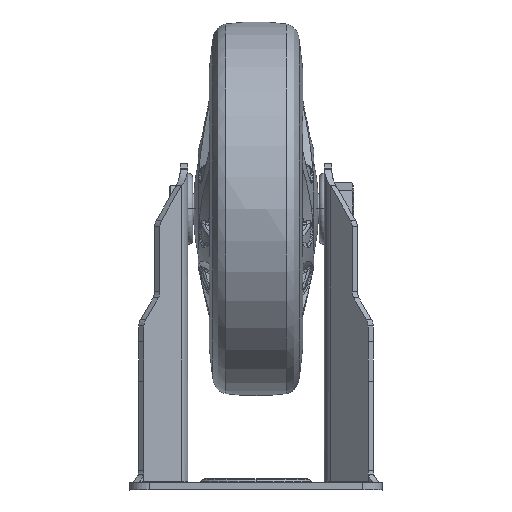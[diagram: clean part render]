
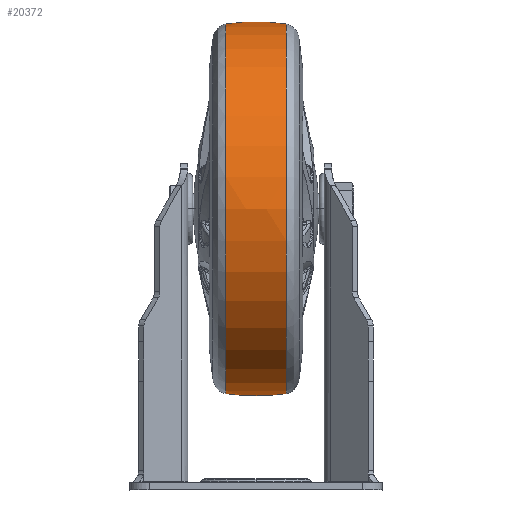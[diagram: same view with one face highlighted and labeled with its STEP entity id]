
A CAD part, left-side view. The second image highlights one B-rep face of the part: STEP entity #20372.
In plain terms, the highlighted free-form (B-spline) face has degree [3, 3] with [7, 4] control points.
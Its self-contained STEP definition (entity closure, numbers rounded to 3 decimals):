
#26 = DIRECTION ( 'NONE',  ( 0., 0., -1. ) ) ;
#539 = VERTEX_POINT ( 'NONE', #10269 ) ;
#594 = CARTESIAN_POINT ( 'NONE',  ( -75.202, 12.873, -100.5 ) ) ;
#2179 =( BOUNDED_SURFACE ( )  B_SPLINE_SURFACE ( 3, 3, ( 
 ( #44059, #59073, #53342, #18834 ),
 ( #38333, #63270, #20114, #5052 ),
 ( #19479, #14983, #38971, #58445 ),
 ( #14344, #34814, #15291, #594 ),
 ( #48550, #58119, #57803, #53021 ),
 ( #5367, #58762, #34200, #24912 ),
 ( #19155, #9217, #53672, #24585 ) ),
 .UNSPECIFIED., .F., .F., .F. ) 
 B_SPLINE_SURFACE_WITH_KNOTS ( ( 4, 3, 4 ),
 ( 4, 4 ),
 ( 0., 1., 2. ),
 ( 0., 1. ),
 .UNSPECIFIED. ) 
 GEOMETRIC_REPRESENTATION_ITEM ( )  RATIONAL_B_SPLINE_SURFACE ( (
 ( 1.192, 1.186, 1.186, 1.192),
 ( 0.941, 0.936, 0.936, 0.941),
 ( 0.941, 0.936, 0.936, 0.941),
 ( 1.192, 1.186, 1.186, 1.192),
 ( 0.941, 0.936, 0.936, 0.941),
 ( 0.941, 0.936, 0.936, 0.941),
 ( 1.192, 1.186, 1.186, 1.192) ) ) 
 REPRESENTATION_ITEM ( '' )  SURFACE ( )  );
#4350 = ORIENTED_EDGE ( 'NONE', *, *, #33723, .T. ) ;
#4375 = AXIS2_PLACEMENT_3D ( 'NONE', #47276, #36484, #17294 ) ;
#5052 = CARTESIAN_POINT ( 'NONE',  ( -41.466, 12.873, -178.459 ) ) ;
#5367 = CARTESIAN_POINT ( 'NONE',  ( -41.466, -12.873, -22.541 ) ) ;
#6243 = ORIENTED_EDGE ( 'NONE', *, *, #53174, .T. ) ;
#9217 = CARTESIAN_POINT ( 'NONE',  ( 4.806, -4.315, -24.116 ) ) ;
#10269 = CARTESIAN_POINT ( 'NONE',  ( 0., 12.38, -25.223 ) ) ;
#10794 = CIRCLE ( 'NONE', #36315, 75.277 ) ;
#14344 = CARTESIAN_POINT ( 'NONE',  ( -75.202, -12.873, -100.5 ) ) ;
#14576 = CARTESIAN_POINT ( 'NONE',  ( 0., -12.38, -175.777 ) ) ;
#14909 = CARTESIAN_POINT ( 'NONE',  ( 0., -12.38, -25.223 ) ) ;
#14983 = CARTESIAN_POINT ( 'NONE',  ( -76.535, -4.315, -147.599 ) ) ;
#15291 = CARTESIAN_POINT ( 'NONE',  ( -76.535, 4.315, -100.5 ) ) ;
#16238 = DIRECTION ( 'NONE',  ( 0., -1., 0. ) ) ;
#16296 = ORIENTED_EDGE ( 'NONE', *, *, #58706, .T. ) ;
#17294 = DIRECTION ( 'NONE',  ( 0., 0., -1. ) ) ;
#18834 = CARTESIAN_POINT ( 'NONE',  ( 4.722, 12.873, -175.553 ) ) ;
#19155 = CARTESIAN_POINT ( 'NONE',  ( 4.722, -12.873, -25.447 ) ) ;
#19479 = CARTESIAN_POINT ( 'NONE',  ( -75.202, -12.873, -146.779 ) ) ;
#20114 = CARTESIAN_POINT ( 'NONE',  ( -42.201, 4.315, -179.841 ) ) ;
#20372 = ADVANCED_FACE ( 'NONE', ( #43746 ), #2179, .T. ) ;
#23818 = CIRCLE ( 'NONE', #4375, 75.277 ) ;
#24585 = CARTESIAN_POINT ( 'NONE',  ( 4.722, 12.873, -25.447 ) ) ;
#24912 = CARTESIAN_POINT ( 'NONE',  ( -41.466, 12.873, -22.541 ) ) ;
#28026 =( BOUNDED_CURVE ( )  B_SPLINE_CURVE ( 3, ( #29598, #39500, #54804, #39189 ),
 .UNSPECIFIED., .F., .F. ) 
 B_SPLINE_CURVE_WITH_KNOTS ( ( 4, 4 ),
 ( 0., 1. ),
 .UNSPECIFIED. ) 
 CURVE ( )  GEOMETRIC_REPRESENTATION_ITEM ( )  RATIONAL_B_SPLINE_CURVE ( ( 1., 0.995, 0.995, 1. ) ) 
 REPRESENTATION_ITEM ( '' )  );
#29598 = CARTESIAN_POINT ( 'NONE',  ( 0., 12.38, -175.777 ) ) ;
#29797 = CARTESIAN_POINT ( 'NONE',  ( 0., 12.38, -175.777 ) ) ;
#32062 = CARTESIAN_POINT ( 'NONE',  ( 0., -4.148, -23.991 ) ) ;
#33723 = EDGE_CURVE ( 'NONE', #54916, #539, #36444, .T. ) ;
#34200 = CARTESIAN_POINT ( 'NONE',  ( -42.201, 4.315, -21.159 ) ) ;
#34814 = CARTESIAN_POINT ( 'NONE',  ( -76.535, -4.315, -100.5 ) ) ;
#36315 = AXIS2_PLACEMENT_3D ( 'NONE', #53417, #16238, #26 ) ;
#36444 =( BOUNDED_CURVE ( )  B_SPLINE_CURVE ( 3, ( #41618, #32062, #42237, #51531 ),
 .UNSPECIFIED., .F., .F. ) 
 B_SPLINE_CURVE_WITH_KNOTS ( ( 4, 4 ),
 ( 0., 1. ),
 .UNSPECIFIED. ) 
 CURVE ( )  GEOMETRIC_REPRESENTATION_ITEM ( )  RATIONAL_B_SPLINE_CURVE ( ( 1., 0.995, 0.995, 1. ) ) 
 REPRESENTATION_ITEM ( '' )  );
#36484 = DIRECTION ( 'NONE',  ( 0., -1., 0. ) ) ;
#37461 = VERTEX_POINT ( 'NONE', #14576 ) ;
#38333 = CARTESIAN_POINT ( 'NONE',  ( -41.466, -12.873, -178.459 ) ) ;
#38971 = CARTESIAN_POINT ( 'NONE',  ( -76.535, 4.315, -147.599 ) ) ;
#39189 = CARTESIAN_POINT ( 'NONE',  ( 0., -12.38, -175.777 ) ) ;
#39500 = CARTESIAN_POINT ( 'NONE',  ( 0., 4.148, -177.009 ) ) ;
#41618 = CARTESIAN_POINT ( 'NONE',  ( 0., -12.38, -25.223 ) ) ;
#42237 = CARTESIAN_POINT ( 'NONE',  ( 0., 4.148, -23.991 ) ) ;
#43746 = FACE_OUTER_BOUND ( 'NONE', #51332, .T. ) ;
#44059 = CARTESIAN_POINT ( 'NONE',  ( 4.722, -12.873, -175.553 ) ) ;
#47276 = CARTESIAN_POINT ( 'NONE',  ( 0., -12.38, -100.5 ) ) ;
#48550 = CARTESIAN_POINT ( 'NONE',  ( -75.202, -12.873, -54.221 ) ) ;
#51332 = EDGE_LOOP ( 'NONE', ( #16296, #6243, #53883, #4350 ) ) ;
#51531 = CARTESIAN_POINT ( 'NONE',  ( 0., 12.38, -25.223 ) ) ;
#51957 = EDGE_CURVE ( 'NONE', #54916, #37461, #23818, .T. ) ;
#53021 = CARTESIAN_POINT ( 'NONE',  ( -75.202, 12.873, -54.221 ) ) ;
#53174 = EDGE_CURVE ( 'NONE', #55746, #37461, #28026, .T. ) ;
#53342 = CARTESIAN_POINT ( 'NONE',  ( 4.806, 4.315, -176.884 ) ) ;
#53417 = CARTESIAN_POINT ( 'NONE',  ( 0., 12.38, -100.5 ) ) ;
#53672 = CARTESIAN_POINT ( 'NONE',  ( 4.806, 4.315, -24.116 ) ) ;
#53883 = ORIENTED_EDGE ( 'NONE', *, *, #51957, .F. ) ;
#54804 = CARTESIAN_POINT ( 'NONE',  ( 0., -4.148, -177.009 ) ) ;
#54916 = VERTEX_POINT ( 'NONE', #14909 ) ;
#55746 = VERTEX_POINT ( 'NONE', #29797 ) ;
#57803 = CARTESIAN_POINT ( 'NONE',  ( -76.535, 4.315, -53.401 ) ) ;
#58119 = CARTESIAN_POINT ( 'NONE',  ( -76.535, -4.315, -53.401 ) ) ;
#58445 = CARTESIAN_POINT ( 'NONE',  ( -75.202, 12.873, -146.779 ) ) ;
#58706 = EDGE_CURVE ( 'NONE', #539, #55746, #10794, .T. ) ;
#58762 = CARTESIAN_POINT ( 'NONE',  ( -42.201, -4.315, -21.159 ) ) ;
#59073 = CARTESIAN_POINT ( 'NONE',  ( 4.806, -4.315, -176.884 ) ) ;
#63270 = CARTESIAN_POINT ( 'NONE',  ( -42.201, -4.315, -179.841 ) ) ;
